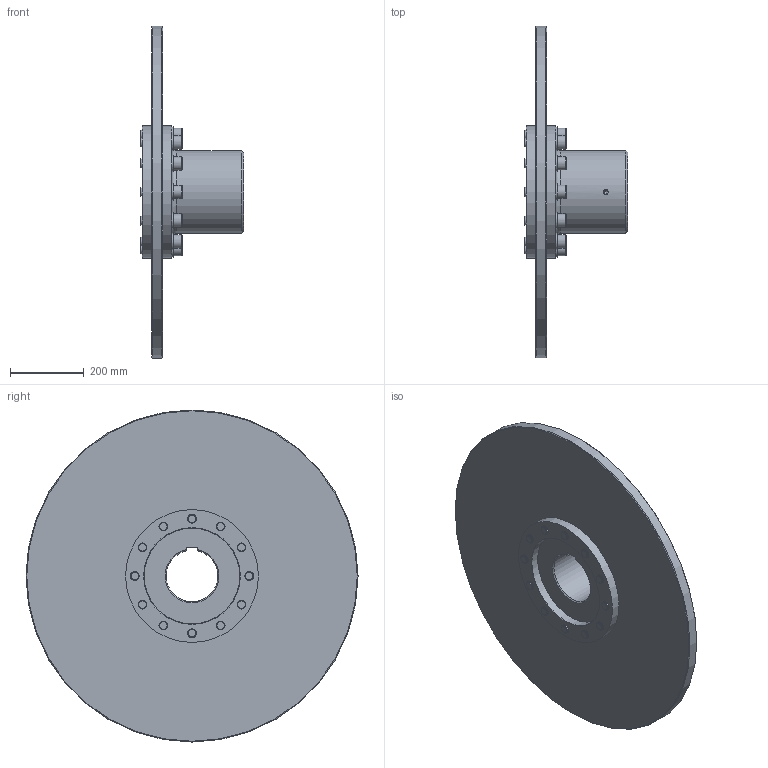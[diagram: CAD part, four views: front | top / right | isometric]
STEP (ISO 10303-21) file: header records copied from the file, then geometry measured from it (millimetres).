
FILE_DESCRIPTION(/* description */ (''),/* implementation_level */ '2;1');
FILE_NAME(/* name */ 'C:\Users\milman01\Desktop\step file\xxxxxx\46825.stp',/* time_stamp */ '2017-03-15T12:57:24+01:00',/* author */ ('milman01'),/* organization */ ('Hillmar Industries Ltd.'),/* preprocessor_version */ 'ST-DEVELOPER v16.1',/* originating_system */ 'Autodesk Inventor 2016',/* authorisation */ '');
FILE_SCHEMA (('AUTOMOTIVE_DESIGN { 1 0 10303 214 3 1 1 }'));
Length unit declared in the file: millimetre
Products named in the file (1): 46825_Shrinkwrap_1
Bounding box: 281 x 900 x 900 mm (x, y, z)
Volume: 27072949.9 mm3; surface area: 1819997.5 mm2
Topology: 1 solids, 15 shells, 327 faces, 692 edges, 446 vertices
Faces by surface type: plane 168, cylinder 83, cone 62, torus 14
Full cylindrical faces by diameter (mm): 13.835 x1, 24 x24, 25 x12, 26 x12, 36 x12, 44 x12, 225 x1, 260 x3, 360 x2, 900 x1
Entity records: 7875 total; most frequent: CARTESIAN_POINT 1407, DIRECTION 1292, ORIENTED_EDGE 972, EDGE_LOOP 562, AXIS2_PLACEMENT_3D 560, EDGE_CURVE 486, VERTEX_POINT 394, STYLED_ITEM 328
